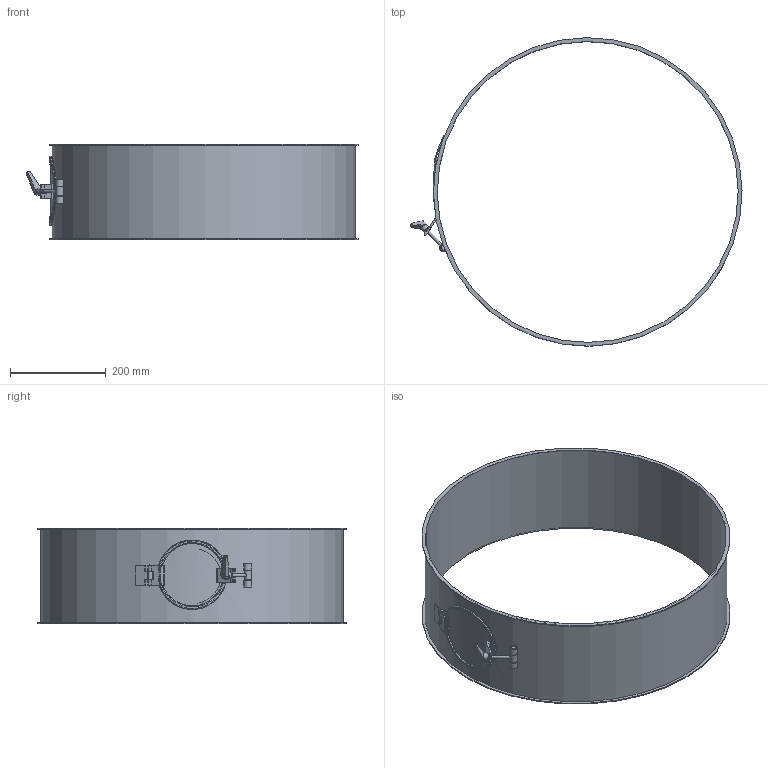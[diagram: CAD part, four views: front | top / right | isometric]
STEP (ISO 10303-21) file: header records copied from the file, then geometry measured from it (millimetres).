
FILE_DESCRIPTION((''),'2;1');
FILE_NAME('U:\Wolfgang\Marcel-3D\fertig\Kapitel 4\6321043.stp','2011-04-21T08:29:04',('TK1'),(''),'Autodesk Inventor 2010','Autodesk Inventor 2010','');
FILE_SCHEMA(('AUTOMOTIVE_DESIGN { 1 0 10303 214 1 1 1 1 }'));
Length unit declared in the file: millimetre
Products named in the file (13): 6321043 (Detailgenauigkeit1); 6321043-1; GelenkDeckel63b; GelenkDeckel1c; Deckel632; Deckel63b; GelenkDeckel35a; dichtung63; Halterung Deckel63; VerschlussB9; Verschluss1; Verschluss2; Verstellbarer Klemmhebel GN 101-14-M6-SW
Assembly tree (13 placements, depth 3):
  6321043 (Detailgenauigkeit1)
    6321043-1
    GelenkDeckel63b
    GelenkDeckel1c
    Deckel632
      Deckel63b
      GelenkDeckel35a
      dichtung63
      Halterung Deckel63
    VerschlussB9
      Verschluss1  x2
      Verschluss2
    Verstellbarer Klemmhebel GN 101-14-M6-SW
Bounding box: 692.89 x 643.98 x 200 mm (x, y, z)
Volume: 889506.2 mm3; surface area: 886176.2 mm2
Topology: 11 solids, 11 shells, 143 faces, 328 edges, 215 vertices
Faces by surface type: plane 67, cylinder 47, cone 18, torus 5, bspline 4, sphere 2
Full cylindrical faces by diameter (mm): 4.8 x1, 6 x5, 8 x1, 10 x3, 11 x2, 14 x1, 15 x1, 16 x2, 115 x1, 130 x1, 135 x1, 145 x1, 628 x1, 632 x1, 644 x2
Entity records: 5602 total; most frequent: CARTESIAN_POINT 2334, DIRECTION 632, ORIENTED_EDGE 532, EDGE_CURVE 266, AXIS2_PLACEMENT_3D 247, VERTEX_POINT 195, EDGE_LOOP 193, VECTOR 138
